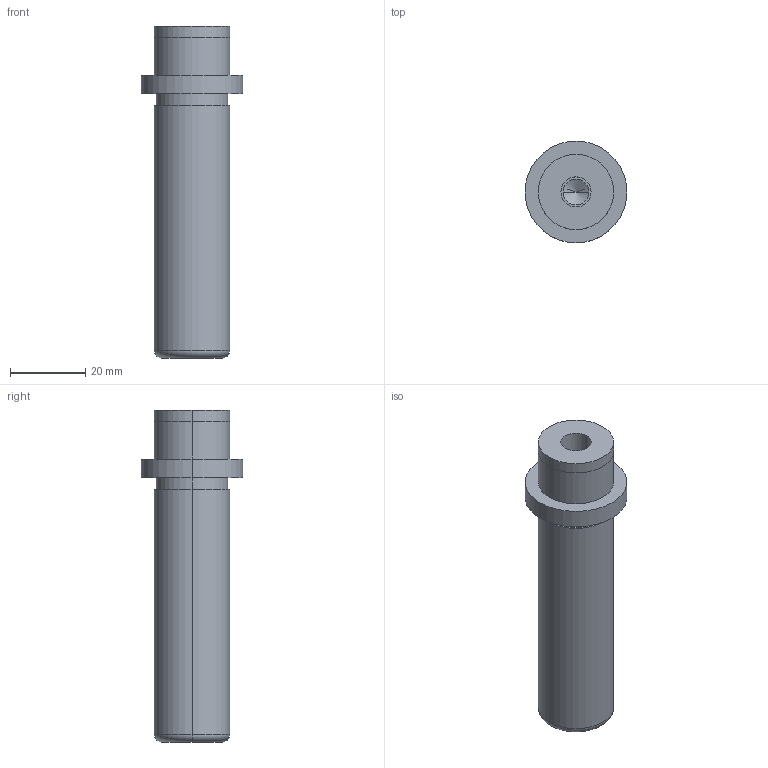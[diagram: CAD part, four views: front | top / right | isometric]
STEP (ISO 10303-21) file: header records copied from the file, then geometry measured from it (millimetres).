
FILE_DESCRIPTION(/* description */ (''),/* implementation_level */ '2;1');
FILE_NAME(/* name */ '3d_sgpw20-75_05264_r00.stp',/* time_stamp */ '2011-01-10T14:11:04+09:00',/* author */ ('MISUMI'),/* organization */ (''),/* preprocessor_version */ 'ST-DEVELOPER v11',/* originating_system */ 'UGS - NX 5.0',/* authorisation */ '');
FILE_SCHEMA (('CONFIG_CONTROL_DESIGN'));
Length unit declared in the file: millimetre
Products named in the file (1): 3d_sgpw20-75_05264_r00
Bounding box: 27 x 27 x 88 mm (x, y, z)
Volume: 26792.2 mm3; surface area: 7781.9 mm2
Topology: 1 solids, 1 shells, 31 faces, 64 edges, 38 vertices
Faces by surface type: cylinder 18, plane 7, cone 4, torus 2
Entity records: 890 total; most frequent: DIRECTION 162, CARTESIAN_POINT 130, ORIENTED_EDGE 120, AXIS2_PLACEMENT_3D 70, EDGE_CURVE 60, EDGE_LOOP 38, CIRCLE 38, VERTEX_POINT 38
